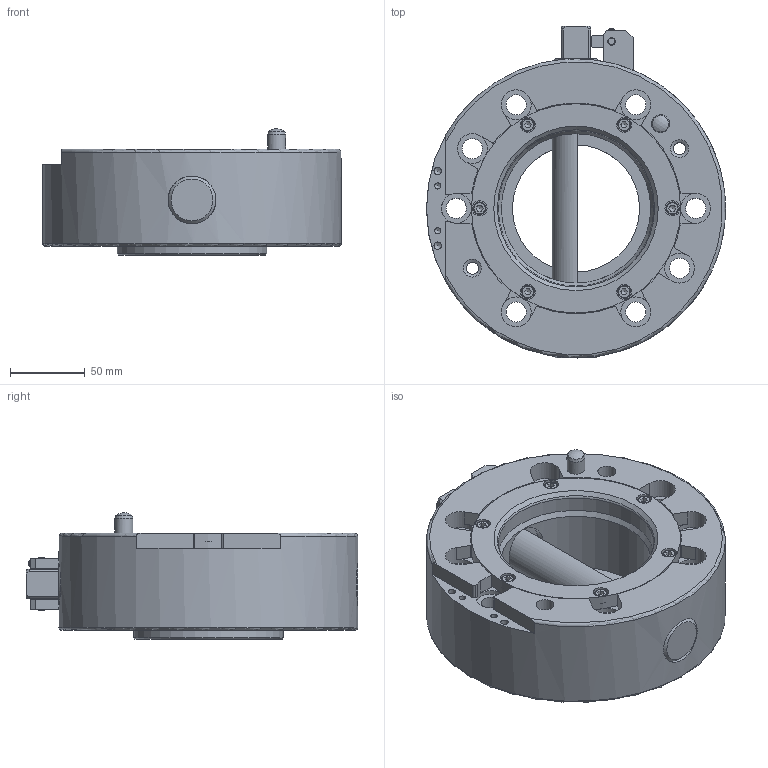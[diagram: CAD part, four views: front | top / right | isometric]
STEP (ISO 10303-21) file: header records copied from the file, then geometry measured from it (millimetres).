
FILE_DESCRIPTION(/* description */ (''),/* implementation_level */ '2;1');
FILE_NAME(/* name */ '\\dc01\daten\CAD\Standard\Daten\3D-Datenbank\SWS\4 - 3D-CAD-Daten SWS 050-160\SWS200\step-Daten\G-SWS200-2OEN-M12.stp',/* time_stamp */ '2015-01-29T10:03:02+01:00',/* author */ ('ysplieth'),/* organization */ ('GRIP GmbH'),/* preprocessor_version */ 'ST-DEVELOPER v15.2',/* originating_system */ 'Autodesk Inventor 2014',/* authorisation */ '');
FILE_SCHEMA (('AUTOMOTIVE_DESIGN { 1 0 10303 214 3 1 1 }'));
Length unit declared in the file: millimetre
Products named in the file (1): Bauteil3
Bounding box: 200 x 222 x 84.43 mm (x, y, z)
Volume: 1479959.8 mm3; surface area: 175147.9 mm2
Topology: 2 solids, 13 shells, 403 faces, 1009 edges, 649 vertices
Faces by surface type: plane 188, cylinder 138, cone 55, torus 20, sphere 2
Full cylindrical faces by diameter (mm): 3.242 x2, 3.3 x1, 4 x3, 4.134 x8, 4.5 x2, 5 x11, 5.1 x2, 5.5 x7, 6.647 x2, 7 x2, 8 x4, 8.5 x6, 9 x1, 10 x9, 12 x6, 13.5 x8, 20 x8, 32 x3, 85 x1, 100 x2, 104 x1, 120 x2, 140 x1, 200 x1
Entity records: 11632 total; most frequent: CARTESIAN_POINT 2628, DIRECTION 1818, ORIENTED_EDGE 1534, EDGE_CURVE 765, AXIS2_PLACEMENT_3D 752, EDGE_LOOP 633, VERTEX_POINT 568, STYLED_ITEM 405
